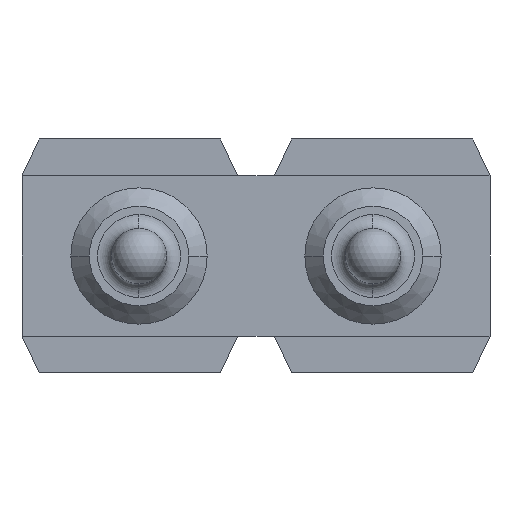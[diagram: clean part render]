
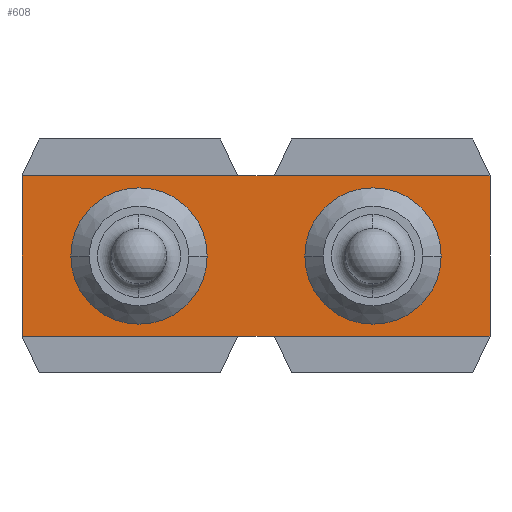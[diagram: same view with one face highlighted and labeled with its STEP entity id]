
A CAD part, front view. The second image highlights one B-rep face of the part: STEP entity #608.
In plain terms, the highlighted planar face has unit normal (0, -1, 0).
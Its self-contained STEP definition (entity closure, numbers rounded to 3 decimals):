
#608=ADVANCED_FACE('',(#1589,#1590,#1591),#1592,.T.);
#766=VERTEX_POINT('',#1775);
#770=VERTEX_POINT('',#1779);
#774=EDGE_CURVE('',#766,#770,#1783,.T.);
#830=VERTEX_POINT('',#1839);
#834=VERTEX_POINT('',#1843);
#838=EDGE_CURVE('',#830,#834,#1847,.T.);
#1100=EDGE_CURVE('',#834,#830,#2109,.T.);
#1124=EDGE_CURVE('',#770,#766,#2133,.T.);
#1150=VERTEX_POINT('',#2159);
#1158=VERTEX_POINT('',#2167);
#1162=EDGE_CURVE('',#1150,#1158,#2171,.T.);
#1166=VERTEX_POINT('',#2175);
#1170=VERTEX_POINT('',#2179);
#1172=EDGE_CURVE('',#1170,#1166,#2181,.T.);
#1180=VERTEX_POINT('',#2189);
#1182=EDGE_CURVE('',#1170,#1180,#2191,.T.);
#1184=EDGE_CURVE('',#1150,#1166,#2193,.T.);
#1186=VERTEX_POINT('',#2195);
#1188=EDGE_CURVE('',#1186,#1158,#2197,.T.);
#1190=VERTEX_POINT('',#2199);
#1192=EDGE_CURVE('',#1186,#1190,#2201,.T.);
#1194=VERTEX_POINT('',#2203);
#1196=EDGE_CURVE('',#1194,#1190,#2205,.T.);
#1198=EDGE_CURVE('',#1194,#1180,#2207,.T.);
#1589=FACE_OUTER_BOUND('',#2588,.T.);
#1590=FACE_BOUND('',#2589,.T.);
#1591=FACE_BOUND('',#2590,.T.);
#1592=PLANE('',#2591);
#1775=CARTESIAN_POINT('',(-0.53,0.3,0.));
#1779=CARTESIAN_POINT('',(-2.01,0.3,0.));
#1783=CIRCLE('',#2821,0.74);
#1839=CARTESIAN_POINT('',(2.01,0.3,0.));
#1843=CARTESIAN_POINT('',(0.53,0.3,0.));
#1847=CIRCLE('',#2908,0.74);
#2109=CIRCLE('',#3291,0.74);
#2133=CIRCLE('',#3324,0.74);
#2159=CARTESIAN_POINT('',(-0.2,0.3,0.87));
#2167=CARTESIAN_POINT('',(-2.54,0.3,0.87));
#2171=LINE('',#3377,#3378);
#2175=CARTESIAN_POINT('',(0.2,0.3,0.87));
#2179=CARTESIAN_POINT('',(2.54,0.3,0.87));
#2181=LINE('',#3391,#3392);
#2189=CARTESIAN_POINT('',(2.54,0.3,-0.87));
#2191=LINE('',#3407,#3408);
#2193=LINE('',#3411,#3412);
#2195=CARTESIAN_POINT('',(-2.54,0.3,-0.87));
#2197=LINE('',#3417,#3418);
#2199=CARTESIAN_POINT('',(-0.2,0.3,-0.87));
#2201=LINE('',#3423,#3424);
#2203=CARTESIAN_POINT('',(0.2,0.3,-0.87));
#2205=LINE('',#3429,#3430);
#2207=LINE('',#3433,#3434);
#2588=EDGE_LOOP('',(#4277,#4278,#4279,#4280,#4281,#4282,#4283,#4284));
#2589=EDGE_LOOP('',(#4285,#4286));
#2590=EDGE_LOOP('',(#4287,#4288));
#2591=AXIS2_PLACEMENT_3D('',#4289,#4290,#4291);
#2821=AXIS2_PLACEMENT_3D('',#4584,#4585,#4586);
#2908=AXIS2_PLACEMENT_3D('',#4623,#4624,#4625);
#3291=AXIS2_PLACEMENT_3D('',#4806,#4807,#4808);
#3324=AXIS2_PLACEMENT_3D('',#4833,#4834,#4835);
#3377=CARTESIAN_POINT('',(0.0,0.3,0.87));
#3378=VECTOR('',#4863,1.0);
#3391=CARTESIAN_POINT('',(0.0,0.3,0.87));
#3392=VECTOR('',#4865,1.0);
#3407=CARTESIAN_POINT('',(2.54,0.3,-0.435));
#3408=VECTOR('',#4868,1.0);
#3411=CARTESIAN_POINT('',(0.1,0.3,0.87));
#3412=VECTOR('',#4869,1.0);
#3417=CARTESIAN_POINT('',(-2.54,0.3,0.435));
#3418=VECTOR('',#4870,1.0);
#3423=CARTESIAN_POINT('',(0.0,0.3,-0.87));
#3424=VECTOR('',#4871,1.0);
#3429=CARTESIAN_POINT('',(-0.146,0.3,-0.87));
#3430=VECTOR('',#4872,1.0);
#3433=CARTESIAN_POINT('',(0.0,0.3,-0.87));
#3434=VECTOR('',#4873,1.0);
#4277=ORIENTED_EDGE('',*,*,#1182,.F.);
#4278=ORIENTED_EDGE('',*,*,#1172,.T.);
#4279=ORIENTED_EDGE('',*,*,#1184,.F.);
#4280=ORIENTED_EDGE('',*,*,#1162,.T.);
#4281=ORIENTED_EDGE('',*,*,#1188,.F.);
#4282=ORIENTED_EDGE('',*,*,#1192,.T.);
#4283=ORIENTED_EDGE('',*,*,#1196,.F.);
#4284=ORIENTED_EDGE('',*,*,#1198,.T.);
#4285=ORIENTED_EDGE('',*,*,#1100,.T.);
#4286=ORIENTED_EDGE('',*,*,#838,.T.);
#4287=ORIENTED_EDGE('',*,*,#1124,.T.);
#4288=ORIENTED_EDGE('',*,*,#774,.T.);
#4289=CARTESIAN_POINT('',(0.0,0.3,0.0));
#4290=DIRECTION('',(0.0,-1.0,0.0));
#4291=DIRECTION('',(0.0,0.0,-1.0));
#4584=CARTESIAN_POINT('',(-1.27,0.3,0.0));
#4585=DIRECTION('',(-0.0,1.0,0.0));
#4586=DIRECTION('',(1.0,0.0,0.0));
#4623=CARTESIAN_POINT('',(1.27,0.3,0.0));
#4624=DIRECTION('',(-0.0,1.0,0.0));
#4625=DIRECTION('',(1.0,0.0,0.0));
#4806=CARTESIAN_POINT('',(1.27,0.3,0.0));
#4807=DIRECTION('',(-0.0,1.0,0.0));
#4808=DIRECTION('',(1.0,0.0,0.0));
#4833=CARTESIAN_POINT('',(-1.27,0.3,0.0));
#4834=DIRECTION('',(-0.0,1.0,0.0));
#4835=DIRECTION('',(1.0,0.0,0.0));
#4863=DIRECTION('',(-1.0,0.0,0.0));
#4865=DIRECTION('',(-1.0,0.0,0.0));
#4868=DIRECTION('',(0.0,0.0,-1.0));
#4869=DIRECTION('',(1.0,0.0,0.0));
#4870=DIRECTION('',(0.0,0.0,1.0));
#4871=DIRECTION('',(1.0,0.0,0.0));
#4872=DIRECTION('',(-1.0,0.0,0.));
#4873=DIRECTION('',(1.0,0.0,0.0));
